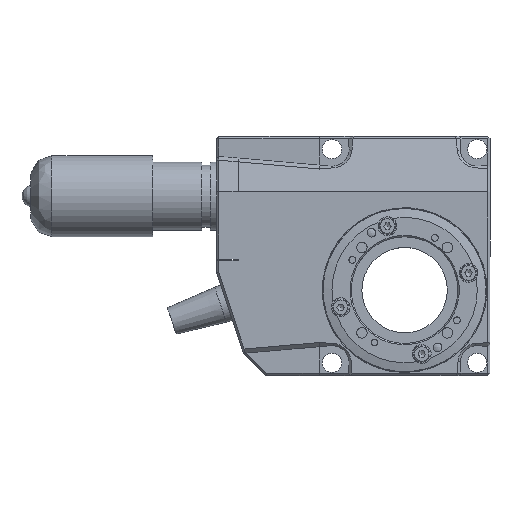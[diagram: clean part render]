
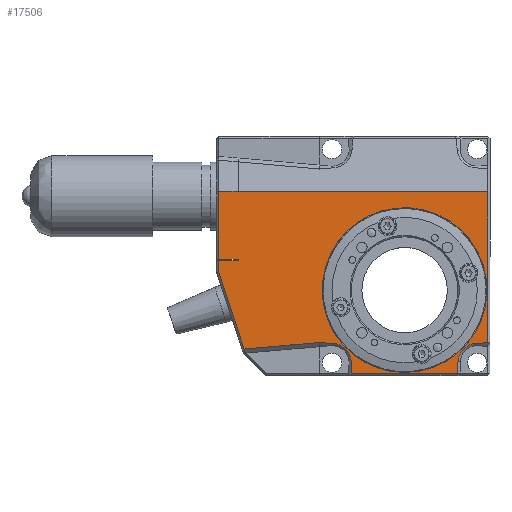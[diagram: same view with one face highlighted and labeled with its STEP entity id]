
A CAD part, top view. The second image highlights one B-rep face of the part: STEP entity #17506.
In plain terms, the highlighted planar face has unit normal (0, 0, 1).
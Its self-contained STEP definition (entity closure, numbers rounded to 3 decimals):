
#8684=CARTESIAN_POINT('',(0.,-48.276,19.0));
#8685=VERTEX_POINT('',#8684);
#8700=CARTESIAN_POINT('',(0.,-48.279,19.0));
#8701=VERTEX_POINT('',#8700);
#8708=CARTESIAN_POINT('',(0.,-48.279,19.0));
#8709=DIRECTION('',(0.,1.0,0.0));
#8710=VECTOR('',#8709,0.003);
#8711=LINE('',#8708,#8710);
#8712=EDGE_CURVE('',#8701,#8685,#8711,.T.);
#10011=CARTESIAN_POINT('',(32.314,-55.5,19.0));
#10012=VERTEX_POINT('',#10011);
#10019=CARTESIAN_POINT('',(7.686,-55.5,19.0));
#10020=VERTEX_POINT('',#10019);
#10021=CARTESIAN_POINT('',(32.314,-55.5,19.0));
#10022=DIRECTION('',(-1.0,0.0,0.0));
#10023=VECTOR('',#10022,24.628);
#10024=LINE('',#10021,#10023);
#10025=EDGE_CURVE('',#10012,#10020,#10024,.T.);
#10313=CARTESIAN_POINT('',(39.5,-13.,19.0));
#10314=VERTEX_POINT('',#10313);
#10315=CARTESIAN_POINT('',(39.5,-48.314,19.0));
#10316=VERTEX_POINT('',#10315);
#10317=CARTESIAN_POINT('',(39.5,-13.,19.0));
#10318=DIRECTION('',(0.0,-1.0,0.0));
#10319=VECTOR('',#10318,35.314);
#10320=LINE('',#10317,#10319);
#10321=EDGE_CURVE('',#10314,#10316,#10320,.T.);
#10619=CARTESIAN_POINT('',(36.686,-48.511,19.0));
#10620=VERTEX_POINT('',#10619);
#10621=CARTESIAN_POINT('',(36.686,-48.511,19.0));
#10622=DIRECTION('',(0.998,0.07,0.0));
#10623=VECTOR('',#10622,2.821);
#10624=LINE('',#10621,#10623);
#10625=EDGE_CURVE('',#10620,#10316,#10624,.T.);
#11364=CARTESIAN_POINT('',(32.511,-52.686,19.0));
#11365=VERTEX_POINT('',#11364);
#11372=CARTESIAN_POINT('',(32.314,-55.5,19.0));
#11373=DIRECTION('',(0.07,0.998,0.0));
#11374=VECTOR('',#11373,2.821);
#11375=LINE('',#11372,#11374);
#11376=EDGE_CURVE('',#10012,#11365,#11375,.T.);
#11395=CARTESIAN_POINT('',(37.,-53.,19.0));
#11396=DIRECTION('',(0.0,0.0,-1.0));
#11397=DIRECTION('',(-1.0,0.0,0.0));
#11398=AXIS2_PLACEMENT_3D('',#11395,#11396,#11397);
#11399=CIRCLE('',#11398,4.5);
#11400=EDGE_CURVE('',#11365,#10620,#11399,.T.);
#11413=CARTESIAN_POINT('',(7.489,-52.686,19.0));
#11414=VERTEX_POINT('',#11413);
#11415=CARTESIAN_POINT('',(7.489,-52.686,19.0));
#11416=DIRECTION('',(0.07,-0.998,0.0));
#11417=VECTOR('',#11416,2.821);
#11418=LINE('',#11415,#11417);
#11419=EDGE_CURVE('',#11414,#10020,#11418,.T.);
#11452=CARTESIAN_POINT('',(3.314,-48.511,19.0));
#11453=VERTEX_POINT('',#11452);
#11454=CARTESIAN_POINT('',(0.,-48.279,19.0));
#11455=DIRECTION('',(0.998,-0.07,0.0));
#11456=VECTOR('',#11455,3.322);
#11457=LINE('',#11454,#11456);
#11458=EDGE_CURVE('',#8701,#11453,#11457,.T.);
#11492=CARTESIAN_POINT('',(3.,-53.,19.0));
#11493=DIRECTION('',(0.0,0.0,-1.0));
#11494=DIRECTION('',(0.0,1.0,0.0));
#11495=AXIS2_PLACEMENT_3D('',#11492,#11493,#11494);
#11496=CIRCLE('',#11495,4.5);
#11497=EDGE_CURVE('',#11453,#11414,#11496,.T.);
#13119=CARTESIAN_POINT('',(20.,-55.3,19.0));
#13120=VERTEX_POINT('',#13119);
#13121=CARTESIAN_POINT('',(20.,-36.0,19.0));
#13122=DIRECTION('',(0.0,0.0,-1.0));
#13123=DIRECTION('',(0.0,-1.0,0.0));
#13124=AXIS2_PLACEMENT_3D('',#13121,#13122,#13123);
#13125=CIRCLE('',#13124,19.3);
#13126=EDGE_CURVE('',#13120,#13120,#13125,.T.);
#14390=CARTESIAN_POINT('',(-19.,-13.,19.));
#14391=VERTEX_POINT('',#14390);
#14424=CARTESIAN_POINT('',(-19.,-12.9,19.));
#14425=VERTEX_POINT('',#14424);
#14432=CARTESIAN_POINT('',(-19.,-13.,19.));
#14433=DIRECTION('',(0.,1.0,0.));
#14434=VECTOR('',#14433,0.1);
#14435=LINE('',#14432,#14434);
#14436=EDGE_CURVE('',#14391,#14425,#14435,.T.);
#14785=CARTESIAN_POINT('',(-19.,-28.8,19.));
#14786=VERTEX_POINT('',#14785);
#14793=CARTESIAN_POINT('',(-23.5,-28.8,19.));
#14794=VERTEX_POINT('',#14793);
#14795=CARTESIAN_POINT('',(-19.,-28.8,19.));
#14796=DIRECTION('',(-1.0,0.0,0.0));
#14797=VECTOR('',#14796,4.5);
#14798=LINE('',#14795,#14797);
#14799=EDGE_CURVE('',#14786,#14794,#14798,.T.);
#14942=CARTESIAN_POINT('',(-23.5,-12.9,19.));
#14943=VERTEX_POINT('',#14942);
#14944=CARTESIAN_POINT('',(-23.5,-28.8,19.));
#14945=DIRECTION('',(0.0,1.0,0.0));
#14946=VECTOR('',#14945,15.9);
#14947=LINE('',#14944,#14946);
#14948=EDGE_CURVE('',#14794,#14943,#14947,.T.);
#15255=CARTESIAN_POINT('',(-19.,-12.9,19.));
#15256=DIRECTION('',(-1.0,0.0,0.0));
#15257=VECTOR('',#15256,4.5);
#15258=LINE('',#15255,#15257);
#15259=EDGE_CURVE('',#14425,#14943,#15258,.T.);
#15312=CARTESIAN_POINT('',(-19.,-29.,19.0));
#15313=VERTEX_POINT('',#15312);
#15320=CARTESIAN_POINT('',(-19.,-28.8,19.));
#15321=DIRECTION('',(0.,-1.0,0.));
#15322=VECTOR('',#15321,0.2);
#15323=LINE('',#15320,#15322);
#15324=EDGE_CURVE('',#14786,#15313,#15323,.T.);
#17364=CARTESIAN_POINT('',(39.5,-13.,19.0));
#17365=DIRECTION('',(-1.0,0.0,0.0));
#17366=VECTOR('',#17365,58.5);
#17367=LINE('',#17364,#17366);
#17368=EDGE_CURVE('',#10314,#14391,#17367,.T.);
#17427=CARTESIAN_POINT('',(-23.5,-31.919,19.));
#17428=VERTEX_POINT('',#17427);
#17435=CARTESIAN_POINT('',(-23.5,-29.,19.));
#17436=VERTEX_POINT('',#17435);
#17437=CARTESIAN_POINT('',(-23.5,-31.919,19.));
#17438=DIRECTION('',(0.0,1.0,0.0));
#17439=VECTOR('',#17438,2.919);
#17440=LINE('',#17437,#17439);
#17441=EDGE_CURVE('',#17428,#17436,#17440,.T.);
#17460=CARTESIAN_POINT('',(-24.,-56.,19.));
#17461=DIRECTION('',(0.0,0.0,1.0));
#17462=DIRECTION('',(-1.0,0.0,0.0));
#17463=AXIS2_PLACEMENT_3D('',#17460,#17461,#17462);
#17464=PLANE('',#17463);
#17465=ORIENTED_EDGE('',*,*,#17441,.F.);
#17466=CARTESIAN_POINT('',(-17.536,-49.811,19.));
#17467=VERTEX_POINT('',#17466);
#17468=CARTESIAN_POINT('',(-17.536,-49.811,19.));
#17469=DIRECTION('',(-0.316,0.949,0.0));
#17470=VECTOR('',#17469,18.859);
#17471=LINE('',#17468,#17470);
#17472=EDGE_CURVE('',#17467,#17428,#17471,.T.);
#17473=ORIENTED_EDGE('',*,*,#17472,.F.);
#17474=CARTESIAN_POINT('',(0.,-48.276,19.0));
#17475=DIRECTION('',(-0.996,-0.087,0.));
#17476=VECTOR('',#17475,17.603);
#17477=LINE('',#17474,#17476);
#17478=EDGE_CURVE('',#8685,#17467,#17477,.T.);
#17479=ORIENTED_EDGE('',*,*,#17478,.F.);
#17480=ORIENTED_EDGE('',*,*,#8712,.F.);
#17481=ORIENTED_EDGE('',*,*,#11458,.T.);
#17482=ORIENTED_EDGE('',*,*,#11497,.T.);
#17483=ORIENTED_EDGE('',*,*,#11419,.T.);
#17484=ORIENTED_EDGE('',*,*,#10025,.F.);
#17485=ORIENTED_EDGE('',*,*,#11376,.T.);
#17486=ORIENTED_EDGE('',*,*,#11400,.T.);
#17487=ORIENTED_EDGE('',*,*,#10625,.T.);
#17488=ORIENTED_EDGE('',*,*,#10321,.F.);
#17489=ORIENTED_EDGE('',*,*,#17368,.T.);
#17490=ORIENTED_EDGE('',*,*,#14436,.T.);
#17491=ORIENTED_EDGE('',*,*,#15259,.T.);
#17492=ORIENTED_EDGE('',*,*,#14948,.F.);
#17493=ORIENTED_EDGE('',*,*,#14799,.F.);
#17494=ORIENTED_EDGE('',*,*,#15324,.T.);
#17495=CARTESIAN_POINT('',(-19.,-29.,19.0));
#17496=DIRECTION('',(-1.0,0.0,0.0));
#17497=VECTOR('',#17496,4.5);
#17498=LINE('',#17495,#17497);
#17499=EDGE_CURVE('',#15313,#17436,#17498,.T.);
#17500=ORIENTED_EDGE('',*,*,#17499,.T.);
#17501=EDGE_LOOP('',(#17465,#17473,#17479,#17480,#17481,#17482,#17483,#17484,#17485,#17486,#17487,#17488,#17489,#17490,#17491,#17492,#17493,#17494,#17500));
#17502=FACE_OUTER_BOUND('',#17501,.T.);
#17503=ORIENTED_EDGE('',*,*,#13126,.T.);
#17504=EDGE_LOOP('',(#17503));
#17505=FACE_BOUND('',#17504,.T.);
#17506=ADVANCED_FACE('',(#17502,#17505),#17464,.T.);
